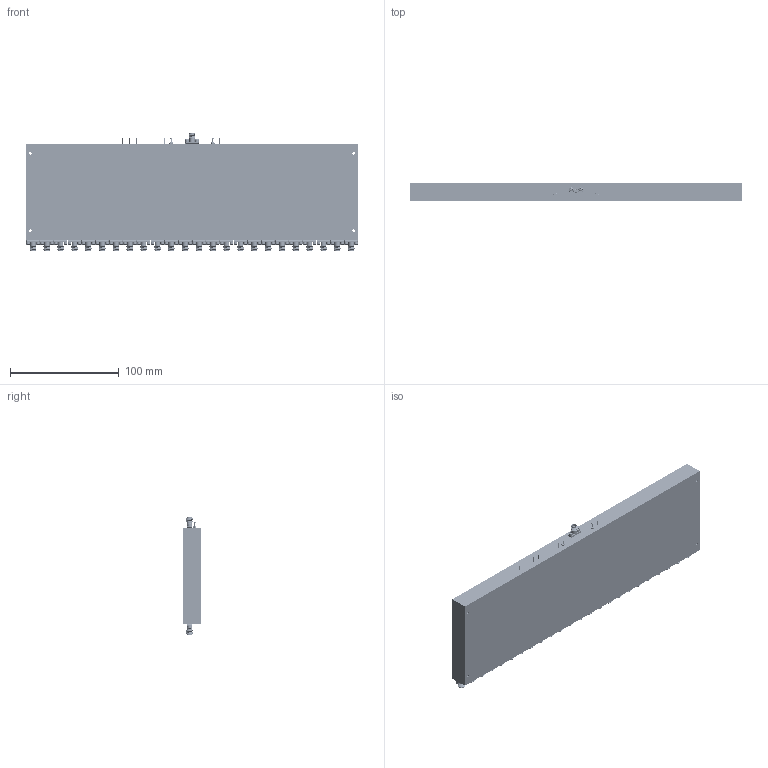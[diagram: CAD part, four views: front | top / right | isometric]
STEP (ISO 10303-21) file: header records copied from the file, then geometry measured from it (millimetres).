
FILE_DESCRIPTION (( 'STEP AP214' ), '1' );
FILE_NAME ('P24T-10G31G-70-T-512-SFF-DEC-ROHS.STEP', '2023-01-10T12:56:51', ( '' ), ( '' ), 'SwSTEP 2.0', 'SolidWorks 2022', '' );
FILE_SCHEMA (( 'AUTOMOTIVE_DESIGN' ));
Length unit declared in the file: inch
Products named in the file (1): P24T-10G31G-70-T-512-SFF-DEC-ROHS
Bounding box: 304.8 x 16.64 x 107.95 mm (x, y, z)
Volume: 457787.2 mm3; surface area: 135084 mm2
Topology: 181 solids, 181 shells, 5268 faces, 14185 edges, 9714 vertices
Faces by surface type: plane 1991, cylinder 1501, torus 1080, cone 468, sphere 154, bspline 74
Entity records: 270692 total; most frequent: CARTESIAN_POINT 66637, DIRECTION 28300, ORIENTED_EDGE 28122, EDGE_CURVE 14061, AXIS2_PLACEMENT_3D 11513, VERTEX_POINT 9714, CIRCLE 6318, EDGE_LOOP 5935
